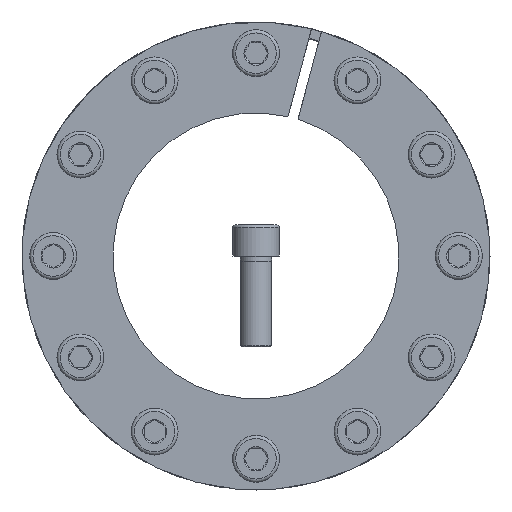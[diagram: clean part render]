
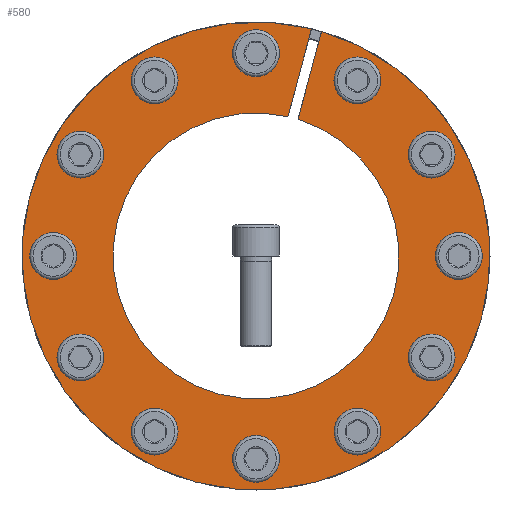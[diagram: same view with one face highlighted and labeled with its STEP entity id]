
A CAD part, front view. The second image highlights one B-rep face of the part: STEP entity #580.
In plain terms, the highlighted planar face has unit normal (0, -1, 0).
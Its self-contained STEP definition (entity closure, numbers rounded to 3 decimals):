
#580 = ADVANCED_FACE( '', ( #1088, #1089, #1090, #1091, #1092, #1093, #1094, #1095, #1096, #1097, #1098, #1099, #1100 ), #1101, .F. );
#1088 = FACE_BOUND( '', #1924, .T. );
#1089 = FACE_BOUND( '', #1925, .T. );
#1090 = FACE_BOUND( '', #1926, .T. );
#1091 = FACE_BOUND( '', #1927, .T. );
#1092 = FACE_BOUND( '', #1928, .T. );
#1093 = FACE_BOUND( '', #1929, .T. );
#1094 = FACE_BOUND( '', #1930, .T. );
#1095 = FACE_BOUND( '', #1931, .T. );
#1096 = FACE_BOUND( '', #1932, .T. );
#1097 = FACE_BOUND( '', #1933, .T. );
#1098 = FACE_BOUND( '', #1934, .T. );
#1099 = FACE_BOUND( '', #1935, .T. );
#1100 = FACE_OUTER_BOUND( '', #1936, .T. );
#1101 = PLANE( '', #1937 );
#1924 = EDGE_LOOP( '', ( #2869 ) );
#1925 = EDGE_LOOP( '', ( #2870 ) );
#1926 = EDGE_LOOP( '', ( #2871 ) );
#1927 = EDGE_LOOP( '', ( #2872 ) );
#1928 = EDGE_LOOP( '', ( #2873 ) );
#1929 = EDGE_LOOP( '', ( #2874 ) );
#1930 = EDGE_LOOP( '', ( #2875 ) );
#1931 = EDGE_LOOP( '', ( #2876 ) );
#1932 = EDGE_LOOP( '', ( #2877 ) );
#1933 = EDGE_LOOP( '', ( #2878 ) );
#1934 = EDGE_LOOP( '', ( #2879 ) );
#1935 = EDGE_LOOP( '', ( #2880 ) );
#1936 = EDGE_LOOP( '', ( #2881, #2882, #2883, #2884 ) );
#1937 = AXIS2_PLACEMENT_3D( '', #2885, #2886, #2887 );
#2869 = ORIENTED_EDGE( '', *, *, #4763, .T. );
#2870 = ORIENTED_EDGE( '', *, *, #4764, .T. );
#2871 = ORIENTED_EDGE( '', *, *, #4765, .T. );
#2872 = ORIENTED_EDGE( '', *, *, #4766, .T. );
#2873 = ORIENTED_EDGE( '', *, *, #4767, .T. );
#2874 = ORIENTED_EDGE( '', *, *, #4768, .T. );
#2875 = ORIENTED_EDGE( '', *, *, #4769, .T. );
#2876 = ORIENTED_EDGE( '', *, *, #4770, .T. );
#2877 = ORIENTED_EDGE( '', *, *, #4771, .T. );
#2878 = ORIENTED_EDGE( '', *, *, #4772, .T. );
#2879 = ORIENTED_EDGE( '', *, *, #4773, .T. );
#2880 = ORIENTED_EDGE( '', *, *, #4748, .T. );
#2881 = ORIENTED_EDGE( '', *, *, #4743, .T. );
#2882 = ORIENTED_EDGE( '', *, *, #4749, .T. );
#2883 = ORIENTED_EDGE( '', *, *, #4720, .T. );
#2884 = ORIENTED_EDGE( '', *, *, #4711, .F. );
#2885 = CARTESIAN_POINT( '', ( 0., 0., 90. ) );
#2886 = DIRECTION( '', ( 0., 1., 0. ) );
#2887 = DIRECTION( '', ( 0., 0., 1. ) );
#4711 = EDGE_CURVE( '', #5230, #5226, #5232, .T. );
#4720 = EDGE_CURVE( '', #5249, #5226, #5250, .T. );
#4743 = EDGE_CURVE( '', #5230, #5285, #5287, .T. );
#4748 = EDGE_CURVE( '', #5293, #5293, #5294, .T. );
#4749 = EDGE_CURVE( '', #5285, #5249, #5295, .T. );
#4763 = EDGE_CURVE( '', #5321, #5321, #5322, .T. );
#4764 = EDGE_CURVE( '', #5323, #5323, #5324, .T. );
#4765 = EDGE_CURVE( '', #5325, #5325, #5326, .T. );
#4766 = EDGE_CURVE( '', #5327, #5327, #5328, .T. );
#4767 = EDGE_CURVE( '', #5329, #5329, #5330, .T. );
#4768 = EDGE_CURVE( '', #5331, #5331, #5332, .T. );
#4769 = EDGE_CURVE( '', #5333, #5333, #5334, .T. );
#4770 = EDGE_CURVE( '', #5335, #5335, #5336, .T. );
#4771 = EDGE_CURVE( '', #5337, #5337, #5338, .T. );
#4772 = EDGE_CURVE( '', #5339, #5339, #5340, .T. );
#4773 = EDGE_CURVE( '', #5341, #5341, #5342, .T. );
#5226 = VERTEX_POINT( '', #5987 );
#5230 = VERTEX_POINT( '', #5992 );
#5232 = CIRCLE( '', #5995, 55. );
#5249 = VERTEX_POINT( '', #6020 );
#5250 = LINE( '', #6021, #6022 );
#5285 = VERTEX_POINT( '', #6086 );
#5287 = LINE( '', #6089, #6090 );
#5293 = VERTEX_POINT( '', #6096 );
#5294 = CIRCLE( '', #6097, 6. );
#5295 = CIRCLE( '', #6098, 90. );
#5321 = VERTEX_POINT( '', #6124 );
#5322 = CIRCLE( '', #6125, 6. );
#5323 = VERTEX_POINT( '', #6126 );
#5324 = CIRCLE( '', #6127, 6. );
#5325 = VERTEX_POINT( '', #6128 );
#5326 = CIRCLE( '', #6129, 6. );
#5327 = VERTEX_POINT( '', #6130 );
#5328 = CIRCLE( '', #6131, 6. );
#5329 = VERTEX_POINT( '', #6132 );
#5330 = CIRCLE( '', #6133, 6. );
#5331 = VERTEX_POINT( '', #6134 );
#5332 = CIRCLE( '', #6135, 6. );
#5333 = VERTEX_POINT( '', #6136 );
#5334 = CIRCLE( '', #6137, 6. );
#5335 = VERTEX_POINT( '', #6138 );
#5336 = CIRCLE( '', #6139, 6. );
#5337 = VERTEX_POINT( '', #6140 );
#5338 = CIRCLE( '', #6141, 6. );
#5339 = VERTEX_POINT( '', #6142 );
#5340 = CIRCLE( '', #6143, 6. );
#5341 = VERTEX_POINT( '', #6144 );
#5342 = CIRCLE( '', #6145, 6. );
#5987 = CARTESIAN_POINT( '', ( 16.157, 0., 52.573 ) );
#5992 = CARTESIAN_POINT( '', ( 12.294, 0., 53.608 ) );
#5995 = AXIS2_PLACEMENT_3D( '', #7432, #7433, #7434 );
#6020 = CARTESIAN_POINT( '', ( 25.22, 0., 86.394 ) );
#6021 = CARTESIAN_POINT( '', ( 25.226, 0., 86.416 ) );
#6022 = VECTOR( '', #7449, 1000. );
#6086 = CARTESIAN_POINT( '', ( 21.356, 0., 87.429 ) );
#6089 = CARTESIAN_POINT( '', ( 12.294, 0., 53.608 ) );
#6090 = VECTOR( '', #7474, 1000. );
#6096 = CARTESIAN_POINT( '', ( -33.804, 0., 70.55 ) );
#6097 = AXIS2_PLACEMENT_3D( '', #7487, #7488, #7489 );
#6098 = AXIS2_PLACEMENT_3D( '', #7490, #7491, #7492 );
#6124 = CARTESIAN_POINT( '', ( 6., 0., 78. ) );
#6125 = AXIS2_PLACEMENT_3D( '', #7532, #7533, #7534 );
#6126 = CARTESIAN_POINT( '', ( 44.196, 0., 64.55 ) );
#6127 = AXIS2_PLACEMENT_3D( '', #7535, #7536, #7537 );
#6128 = CARTESIAN_POINT( '', ( 70.55, 0., 33.804 ) );
#6129 = AXIS2_PLACEMENT_3D( '', #7538, #7539, #7540 );
#6130 = CARTESIAN_POINT( '', ( 78., 0., -6. ) );
#6131 = AXIS2_PLACEMENT_3D( '', #7541, #7542, #7543 );
#6132 = CARTESIAN_POINT( '', ( 64.55, 0., -44.196 ) );
#6133 = AXIS2_PLACEMENT_3D( '', #7544, #7545, #7546 );
#6134 = CARTESIAN_POINT( '', ( 33.804, 0., -70.55 ) );
#6135 = AXIS2_PLACEMENT_3D( '', #7547, #7548, #7549 );
#6136 = CARTESIAN_POINT( '', ( -6., 0., -78. ) );
#6137 = AXIS2_PLACEMENT_3D( '', #7550, #7551, #7552 );
#6138 = CARTESIAN_POINT( '', ( -44.196, 0., -64.55 ) );
#6139 = AXIS2_PLACEMENT_3D( '', #7553, #7554, #7555 );
#6140 = CARTESIAN_POINT( '', ( -70.55, 0., -33.804 ) );
#6141 = AXIS2_PLACEMENT_3D( '', #7556, #7557, #7558 );
#6142 = CARTESIAN_POINT( '', ( -78., 0., 6. ) );
#6143 = AXIS2_PLACEMENT_3D( '', #7559, #7560, #7561 );
#6144 = CARTESIAN_POINT( '', ( -64.55, 0., 44.196 ) );
#6145 = AXIS2_PLACEMENT_3D( '', #7562, #7563, #7564 );
#7432 = CARTESIAN_POINT( '', ( 0., 0., 0. ) );
#7433 = DIRECTION( '', ( 0., -1., 0. ) );
#7434 = DIRECTION( '', ( 0., 0., -1. ) );
#7449 = DIRECTION( '', ( -0.259, 0., -0.966 ) );
#7474 = DIRECTION( '', ( 0.259, 0., 0.966 ) );
#7487 = CARTESIAN_POINT( '', ( -39., 0., 67.55 ) );
#7488 = DIRECTION( '', ( 0., 1., 0. ) );
#7489 = DIRECTION( '', ( 0.866, 0., 0.5 ) );
#7490 = CARTESIAN_POINT( '', ( 0., 0., 0. ) );
#7491 = DIRECTION( '', ( 0., -1., 0. ) );
#7492 = DIRECTION( '', ( 0., 0., -1. ) );
#7532 = CARTESIAN_POINT( '', ( 0., 0., 78. ) );
#7533 = DIRECTION( '', ( 0., 1., 0. ) );
#7534 = DIRECTION( '', ( 1., 0., 0. ) );
#7535 = CARTESIAN_POINT( '', ( 39., 0., 67.55 ) );
#7536 = DIRECTION( '', ( 0., 1., 0. ) );
#7537 = DIRECTION( '', ( 0.866, 0., -0.5 ) );
#7538 = CARTESIAN_POINT( '', ( 67.55, 0., 39. ) );
#7539 = DIRECTION( '', ( 0., 1., 0. ) );
#7540 = DIRECTION( '', ( 0.5, 0., -0.866 ) );
#7541 = CARTESIAN_POINT( '', ( 78., 0., 0. ) );
#7542 = DIRECTION( '', ( 0., 1., 0. ) );
#7543 = DIRECTION( '', ( 0., 0., -1. ) );
#7544 = CARTESIAN_POINT( '', ( 67.55, 0., -39. ) );
#7545 = DIRECTION( '', ( 0., 1., 0. ) );
#7546 = DIRECTION( '', ( -0.5, 0., -0.866 ) );
#7547 = CARTESIAN_POINT( '', ( 39., 0., -67.55 ) );
#7548 = DIRECTION( '', ( 0., 1., 0. ) );
#7549 = DIRECTION( '', ( -0.866, 0., -0.5 ) );
#7550 = CARTESIAN_POINT( '', ( 0., 0., -78. ) );
#7551 = DIRECTION( '', ( 0., 1., 0. ) );
#7552 = DIRECTION( '', ( -1., 0., 0. ) );
#7553 = CARTESIAN_POINT( '', ( -39., 0., -67.55 ) );
#7554 = DIRECTION( '', ( 0., 1., 0. ) );
#7555 = DIRECTION( '', ( -0.866, 0., 0.5 ) );
#7556 = CARTESIAN_POINT( '', ( -67.55, 0., -39. ) );
#7557 = DIRECTION( '', ( 0., 1., 0. ) );
#7558 = DIRECTION( '', ( -0.5, 0., 0.866 ) );
#7559 = CARTESIAN_POINT( '', ( -78., 0., 0. ) );
#7560 = DIRECTION( '', ( 0., 1., 0. ) );
#7561 = DIRECTION( '', ( 0., 0., 1. ) );
#7562 = CARTESIAN_POINT( '', ( -67.55, 0., 39. ) );
#7563 = DIRECTION( '', ( 0., 1., 0. ) );
#7564 = DIRECTION( '', ( 0.5, 0., 0.866 ) );
